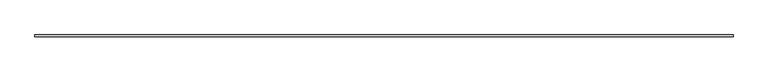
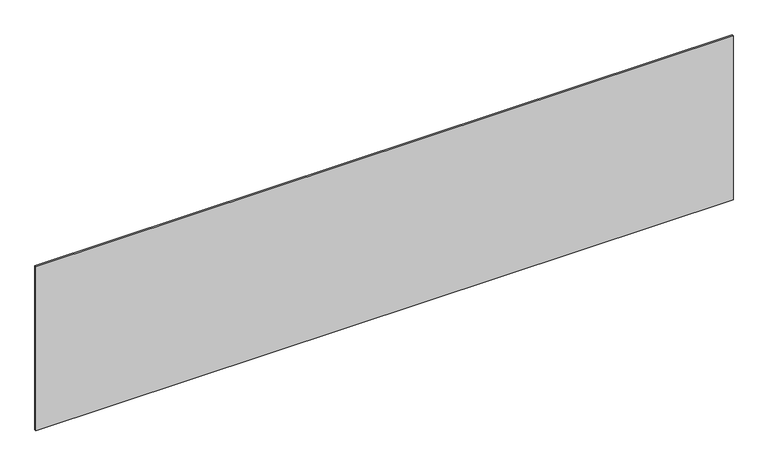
"""IFC4 building model written with IfcOpenShell, lengths in millimetres: proxy geometry, ELEVATE^CREDENZA 35h_25x96 B 4 DOOR-FLOAT."""

from ifc_helpers import new_model, si_unit, frame, origin, place, context, project, spatial, polyline, outline, extrude, source, transform, mapped, element, save


def generic_models_e3513f17(model_context):
    return source(origin(), model_context, "Body", "SweptSolid", [
        extrude(outline(polyline([(2400.3, 0.0), (0.0, 0.0), (0.0, 6.35), (2400.3, 6.35), (2400.3, 0.0)])), frame((0.0, 0.0, -596.9), z_axis=(0.0, 0.0, 1.0), x_axis=(1.0, 0.0, 0.0)), (0.0, 0.0, 1.0), 596.9),
    ])


if __name__ == "__main__":
    model = new_model("IFC4")
    model_context = context("Model", 3, world=origin())
    ifc_project = project(units=[si_unit("LENGTHUNIT", "METRE", prefix="MILLI")], contexts=[model_context])
    site = spatial("IfcSite", under=ifc_project)
    building = spatial("IfcBuilding", under=site)
    placement = place(None, origin())
    generic_models_shape = generic_models_e3513f17(model_context)
    element("IfcBuildingElementProxy", 1, Name="ELEVATE^CREDENZA 35h_25x96 B 4 DOOR-FLOAT", ObjectType="ELEVATE^CREDENZA 35h_25x96 B 4 DOOR-FLOAT", at=placement, inside=building, context=model_context, shape_type="MappedRepresentation", body=[
        mapped(generic_models_shape, transform((0.0, 0.0, 0.0), x_axis=(1.0, 0.0, 0.0), y_axis=(0.0, 1.0, 0.0), z_axis=(0.0, 0.0, 1.0))),
    ])
    save(model, "model.ifc")
